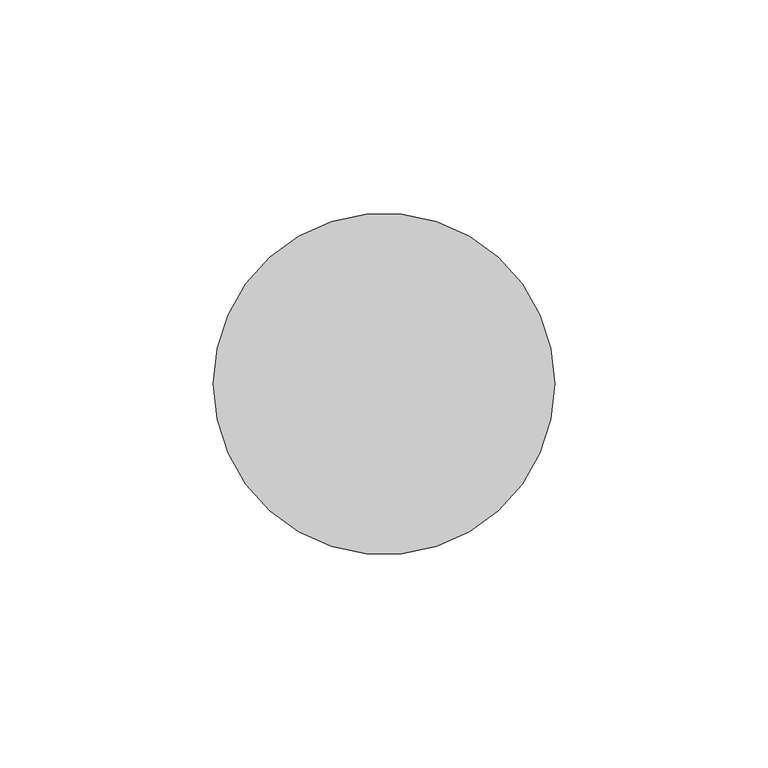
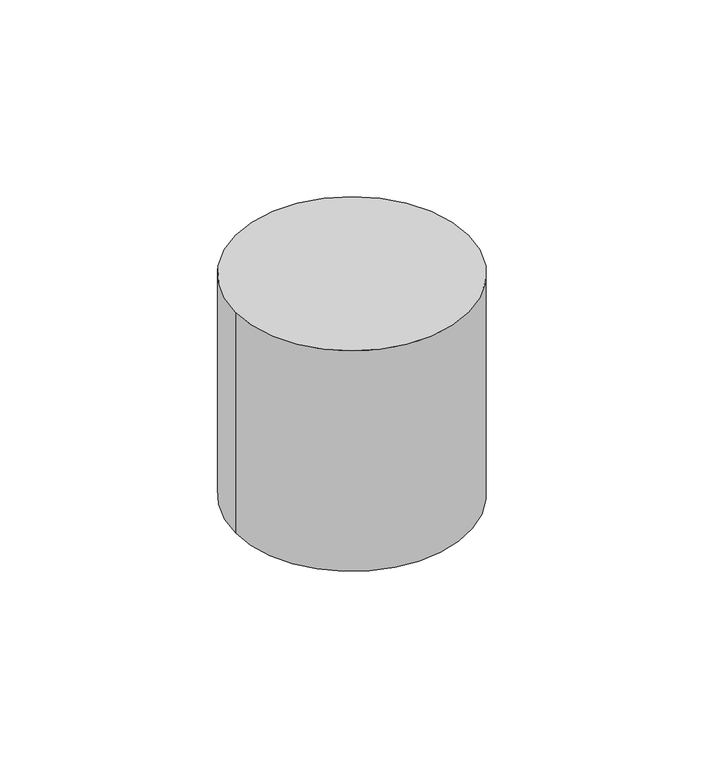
"""IFC4 building model written with IfcOpenShell, lengths in millimetres: proxy geometry, KONE_Buffer_Placeholder : KONE_Buffer_Placeholder."""

from ifc_helpers import new_model, si_unit, point, frame_2d, origin, origin_with_axes, place, context, project, spatial, circle_curve, trimmed, segment, composite_curve, outline, extrude, source, transform, mapped, element, save


def specialty_equipment_0a81d442(model_context):
    return source(origin(), model_context, "Body", "SweptSolid", [
        extrude(outline(composite_curve([segment(trimmed(circle_curve(frame_2d((129.3686008, 20.091544)), 40.0), [point((169.3686008, 20.091544))], [point((89.3686008, 20.091544))], False, "CARTESIAN"), True, "CONTINUOUS"), segment(trimmed(circle_curve(frame_2d((129.3686008, 20.091544)), 40.0), [point((89.3686008, 20.091544))], [point((169.3686008, 20.091544))], False, "CARTESIAN"), True, "CONTINUOUS")], self_intersect=False)), origin_with_axes(), (0.0, 0.0, 1.0), 80.0),
    ])


if __name__ == "__main__":
    model = new_model("IFC4")
    model_context = context("Model", 3, world=origin())
    ifc_project = project(units=[si_unit("LENGTHUNIT", "METRE", prefix="MILLI")], contexts=[model_context])
    site = spatial("IfcSite", under=ifc_project)
    building = spatial("IfcBuilding", under=site)
    placement = place(None, origin())
    specialty_equipment_shape = specialty_equipment_0a81d442(model_context)
    element("IfcBuildingElementProxy", 1, Name="KONE_Buffer_Placeholder : KONE_Buffer_Placeholder", ObjectType="KONE_Buffer_Placeholder : KONE_Buffer_Placeholder", at=placement, inside=building, context=model_context, shape_type="MappedRepresentation", body=[
        mapped(specialty_equipment_shape, transform((0.0, 0.0, 0.0), x_axis=(1.0, 0.0, 0.0), y_axis=(0.0, 1.0, 0.0), z_axis=(0.0, 0.0, 1.0))),
    ])
    save(model, "model.ifc")
